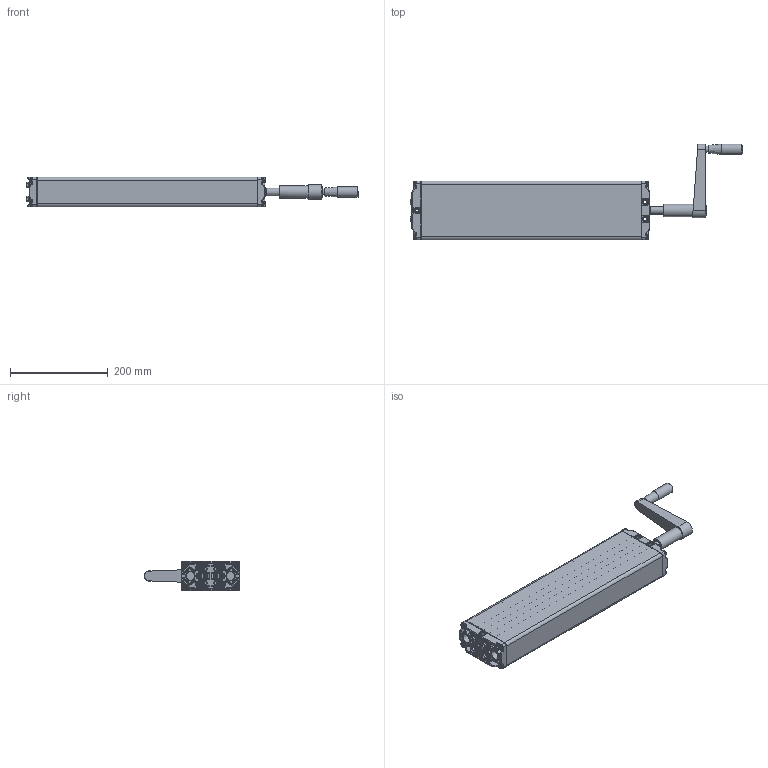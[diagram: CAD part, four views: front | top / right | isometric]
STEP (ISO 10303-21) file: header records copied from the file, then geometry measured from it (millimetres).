
FILE_DESCRIPTION(/* description */ ('Unknown'),/* implementation_level */ '2;1');
FILE_NAME(/* name */ '312.20153 Pumpe PB 4418 W mit Handkurbel',/* time_stamp */ '2016-09-02T11:03:35+02:00',/* author */ ('Unknown'),/* organization */ ('Unknown'),/* preprocessor_version */ 'ST-DEVELOPER v16.7',/* originating_system */ 'DEX',/* authorisation */ $);
FILE_SCHEMA (('AUTOMOTIVE_DESIGN {1 0 10303 214 3 1 1}'));
Products named in the file (21): 102.00153; 115.00023; 125.00044; 115.00007; 142.00021; 125.00021; 113.00005; 128.00001; 125.00052; 126.00013; 125.00053; 127.00014; Handgriff; 142.00013; 125.00143; 115.00140; 126.00006; 122.00040; 119.00043; 126.00005; 142.00057
Assembly tree (30 placements, depth 3):
  102.00153
    115.00023  x4
      125.00044
      115.00007
      142.00021
      125.00021
    113.00005
      128.00001
      125.00052
      126.00013
      125.00053
      127.00014
      Handgriff
    142.00013  x8
    125.00143
    115.00140
      126.00006
      122.00040
    119.00043
    126.00005
    142.00057
Bounding box: 677.72 x 195.5 x 60.3 mm (x, y, z)
Volume: 767739.3 mm3; surface area: 471654.6 mm2
Topology: 32 solids, 32 shells, 2579 faces, 6103 edges, 3518 vertices
Faces by surface type: plane 711, bspline 707, cylinder 575, cone 356, torus 172, sphere 58
Full cylindrical faces by diameter (mm): 3.5 x4, 4 x2, 4.1 x4, 4.2 x5, 4.917 x2, 5 x8, 6.917 x8, 8 x10, 9.8 x8, 10 x4, 10.4 x5, 12.8 x1, 13 x1, 13.9 x8, 14 x1, 16 x2, 17 x1, 17.3 x4, 18 x1, 19 x1, 20.6 x1, 21 x1, 22 x1, 25.5 x1
Entity records: 101204 total; most frequent: CARTESIAN_POINT 55693, ORIENTED_EDGE 8526, DIRECTION 6935, EDGE_CURVE 4263, AXIS2_PLACEMENT_3D 2788, VERTEX_POINT 2625, FACE_BOUND 2108, EDGE_LOOP 2105
